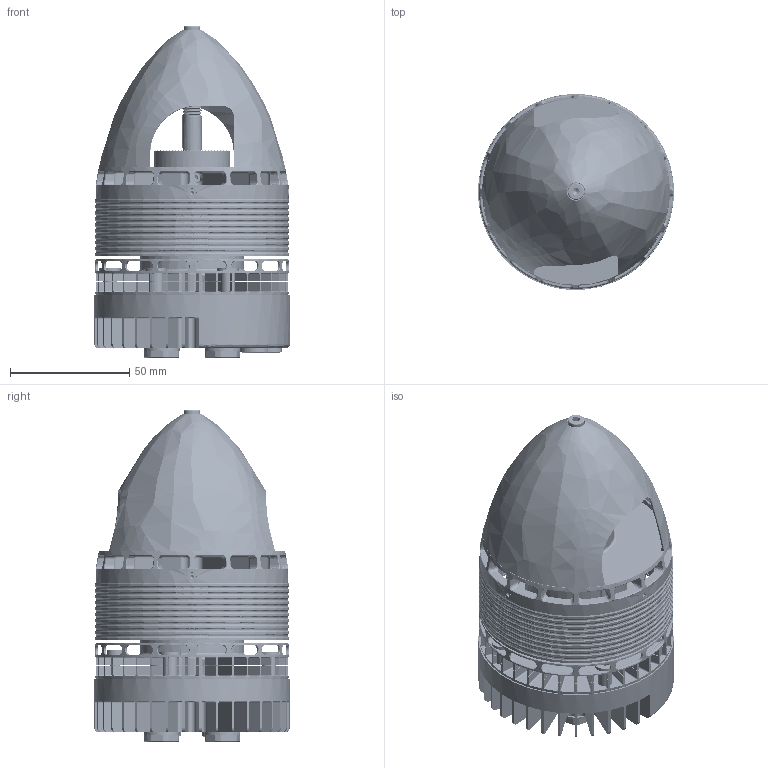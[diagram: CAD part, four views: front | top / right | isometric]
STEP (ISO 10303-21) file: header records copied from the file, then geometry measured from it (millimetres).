
FILE_DESCRIPTION (( 'STEP AP203' ), '1' );
FILE_NAME ('IV7224（外发）.STEP', '2025-06-19T03:02:25', ( '微软用户' ), ( '微软中国' ), 'SwSTEP 2.0', 'SolidWorks 2020', '' );
FILE_SCHEMA (( 'CONFIG_CONTROL_DESIGN' ));
Products named in the file (1): IV7224ㄗ俋楷ㄘ
Bounding box: 81.97 x 81.98 x 139 mm (x, y, z)
Volume: 112646.1 mm3; surface area: 145726.8 mm2
Topology: 1 solids, 86 shells, 6595 faces, 16168 edges, 9583 vertices
Faces by surface type: plane 3451, cylinder 1528, bspline 812, cone 565, torus 239
Entity records: 311301 total; most frequent: CARTESIAN_POINT 163957, ORIENTED_EDGE 32268, DIRECTION 28967, EDGE_CURVE 16134, AXIS2_PLACEMENT_3D 10433, VERTEX_POINT 9583, LINE 8101, VECTOR 8101
